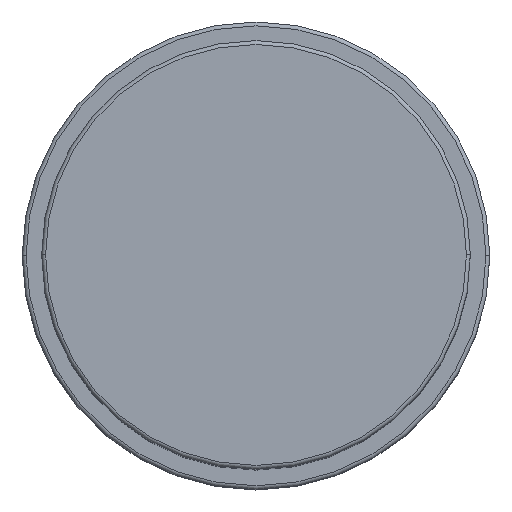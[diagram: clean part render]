
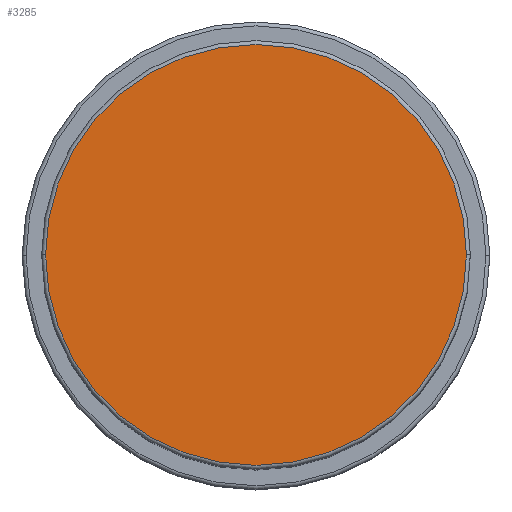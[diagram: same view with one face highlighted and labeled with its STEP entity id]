
A CAD part, top view. The second image highlights one B-rep face of the part: STEP entity #3285.
In plain terms, the highlighted planar face has unit normal (0, 0, 1).
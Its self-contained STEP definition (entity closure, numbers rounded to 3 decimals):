
#60 = DIRECTION ( 'NONE',  ( 0., 0., 1. ) ) ;
#245 = AXIS2_PLACEMENT_3D ( 'NONE', #3076, #60, #4530 ) ;
#429 = DIRECTION ( 'NONE',  ( 1., 0., 0. ) ) ;
#1000 = CIRCLE ( 'NONE', #245, 27. ) ;
#1026 = VERTEX_POINT ( 'NONE', #1592 ) ;
#1277 = EDGE_CURVE ( 'NONE', #1026, #3686, #4418, .T. ) ;
#1592 = CARTESIAN_POINT ( 'NONE',  ( 27., 0., 91. ) ) ;
#2010 = DIRECTION ( 'NONE',  ( 0., 0., 1. ) ) ;
#2125 = FACE_OUTER_BOUND ( 'NONE', #3908, .T. ) ;
#2310 = CARTESIAN_POINT ( 'NONE',  ( 0., 0., 91. ) ) ;
#2639 = CARTESIAN_POINT ( 'NONE',  ( 0., 0., 91. ) ) ;
#3017 = DIRECTION ( 'NONE',  ( 0., 0., 1. ) ) ;
#3063 = ORIENTED_EDGE ( 'NONE', *, *, #1277, .T. ) ;
#3076 = CARTESIAN_POINT ( 'NONE',  ( 0., 0., 91. ) ) ;
#3285 = ADVANCED_FACE ( 'NONE', ( #2125 ), #4599, .T. ) ;
#3345 = ORIENTED_EDGE ( 'NONE', *, *, #4290, .T. ) ;
#3588 = CARTESIAN_POINT ( 'NONE',  ( -27., 0., 91. ) ) ;
#3686 = VERTEX_POINT ( 'NONE', #3588 ) ;
#3908 = EDGE_LOOP ( 'NONE', ( #3063, #3345 ) ) ;
#3932 = AXIS2_PLACEMENT_3D ( 'NONE', #2310, #2010, #429 ) ;
#4290 = EDGE_CURVE ( 'NONE', #3686, #1026, #1000, .T. ) ;
#4418 = CIRCLE ( 'NONE', #4762, 27. ) ;
#4530 = DIRECTION ( 'NONE',  ( 1., 0., 0. ) ) ;
#4553 = DIRECTION ( 'NONE',  ( 1., 0., 0. ) ) ;
#4599 = PLANE ( 'NONE',  #3932 ) ;
#4762 = AXIS2_PLACEMENT_3D ( 'NONE', #2639, #3017, #4553 ) ;
